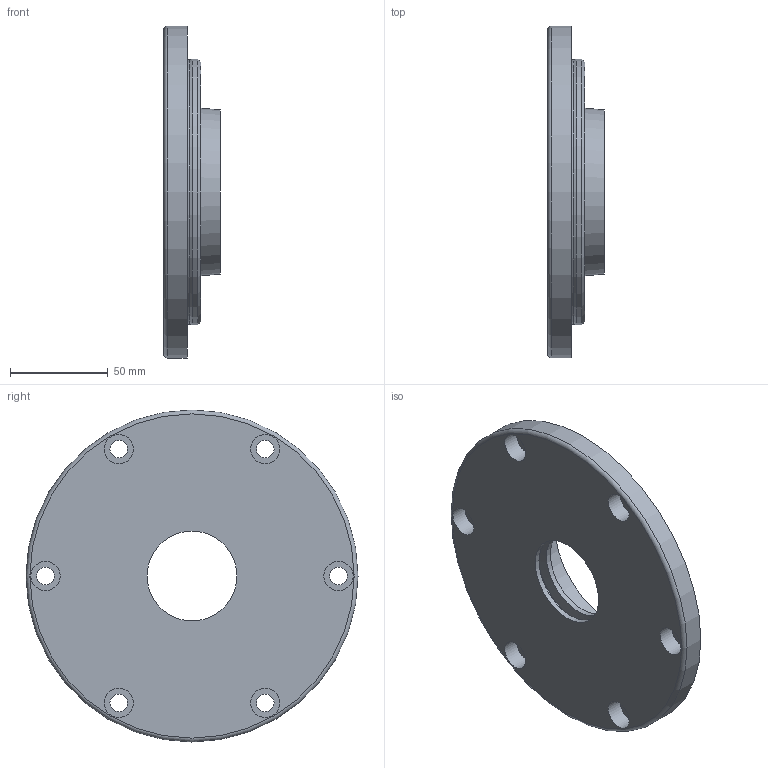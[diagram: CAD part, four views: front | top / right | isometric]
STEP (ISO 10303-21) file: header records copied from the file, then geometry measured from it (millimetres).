
FILE_DESCRIPTION((''),'2;1');
FILE_NAME('I:\Kurz\oerlikon_neu\Fliehkraftkupplung\682Modelle-Ausfuehrung_mit_Passfeder\Modell_Deckel_Pos04.stp','2010-05-04T19:52:36',('Administrator'),(''),'Autodesk Inventor 11','Autodesk Inventor 11','');
FILE_SCHEMA(('AUTOMOTIVE_DESIGN { 1 0 10303 214 1 1 1 1 }'));
Length unit declared in the file: millimetre
Products named in the file (1): Pos4_Deckel
Bounding box: 29 x 170 x 170 mm (x, y, z)
Volume: 276401.2 mm3; surface area: 66153.8 mm2
Topology: 1 solids, 1 shells, 42 faces, 81 edges, 52 vertices
Faces by surface type: cylinder 20, plane 13, cone 5, torus 4
Full cylindrical faces by diameter (mm): 9 x6, 15 x6, 46 x2, 58 x1, 75 x1, 125 x1, 135.4 x1, 136 x1, 170 x1
Entity records: 955 total; most frequent: DIRECTION 182, CARTESIAN_POINT 139, ORIENTED_EDGE 96, EDGE_LOOP 96, AXIS2_PLACEMENT_3D 91, FACE_BOUND 54, VERTEX_POINT 48, CIRCLE 48
